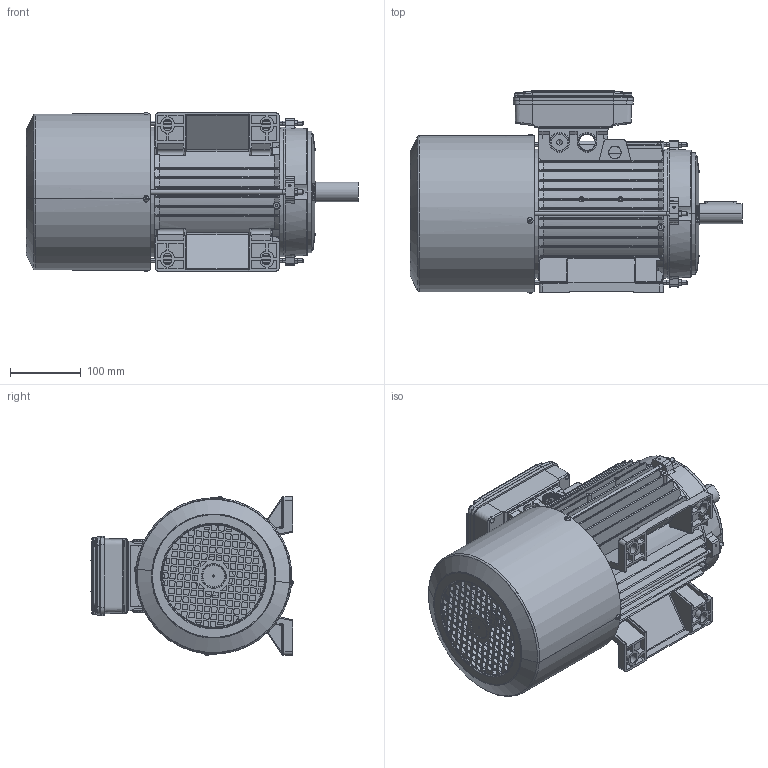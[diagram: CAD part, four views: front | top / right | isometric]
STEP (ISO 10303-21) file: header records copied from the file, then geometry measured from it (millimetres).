
FILE_DESCRIPTION (( 'STEP AP214' ), '1' );
FILE_NAME ('M14HA0011.STEP', '2019-09-20T10:08:56', ( '' ), ( '' ), 'SwSTEP 2.0', 'SolidWorks 2018', '' );
FILE_SCHEMA (( 'AUTOMOTIVE_DESIGN' ));
Length unit declared in the file: millimetre
Products named in the file (15): Cuffia BM 112; Dado M5; Tirante SM 112; Scudo Lato Freno P1 BM 112 - DFAN0101; Scudo Lato Comando B3 BA-BM 112 - DFAD0194; Carcassa 112 B3; M14HA0011; Scatola per Morsettiera Doppia 90-100-112 - Completa; Guarnizione Coperchio Semplice Scatola BA 90 100 112 - DDAL0094; Vite  a testa bombata M4x16; Coperchio per Scatola per Morsettiera Doppia 90-100-112; Scatola per Morsettiera Doppia 90-100-112; Vite testa rotonda M3; Chiavetta 100-112; Albero BM 112
Assembly tree (26 placements, depth 3):
  M14HA0011
    Carcassa 112 B3
    Scudo Lato Comando B3 BA-BM 112 - DFAD0194
    Scudo Lato Freno P1 BM 112 - DFAN0101
    Tirante SM 112  x4
    Dado M5  x4
    Cuffia BM 112
    Albero BM 112
    Chiavetta 100-112
    Vite testa rotonda M3  x4
    Scatola per Morsettiera Doppia 90-100-112 - Completa
      Scatola per Morsettiera Doppia 90-100-112
      Coperchio per Scatola per Morsettiera Doppia 90-100-112
      Vite  a testa bombata M4x16  x4
      Guarnizione Coperchio Semplice Scatola BA 90 100 112 - DDAL0094
Bounding box: 470.25 x 286.56 x 225.12 mm (x, y, z)
Volume: 2233155.4 mm3; surface area: 1219554.1 mm2
Topology: 29 solids, 29 shells, 4478 faces, 12190 edges, 7805 vertices
Faces by surface type: cylinder 1767, plane 1596, bspline 436, torus 371, cone 300, sphere 8
Entity records: 153857 total; most frequent: CARTESIAN_POINT 53740, ORIENTED_EDGE 21966, DIRECTION 19248, EDGE_CURVE 10983, AXIS2_PLACEMENT_3D 7082, VERTEX_POINT 7073, LINE 5084, VECTOR 5084
